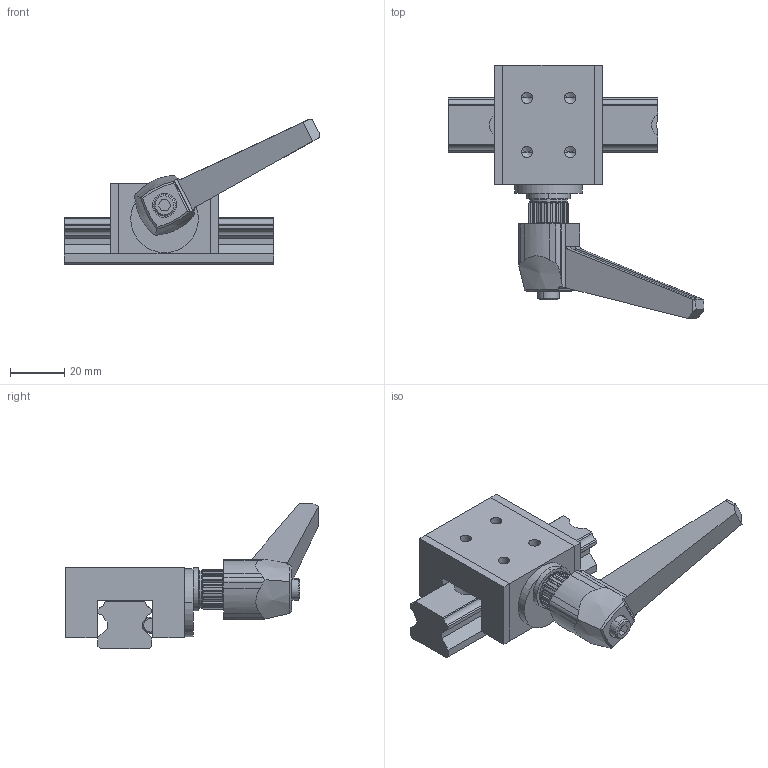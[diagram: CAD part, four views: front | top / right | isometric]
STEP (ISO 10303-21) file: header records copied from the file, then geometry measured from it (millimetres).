
FILE_DESCRIPTION (( 'STEP AP203' ), '1' );
FILE_NAME ('TRAVA TRILHO_20.STEP', '2023-09-14T18:29:13', ( '' ), ( '' ), 'SwSTEP 2.0', 'SolidWorks 2019', '' );
FILE_SCHEMA (( 'CONFIG_CONTROL_DESIGN' ));
Length unit declared in the file: millimetre
Products named in the file (9): PINO PRESSIONADOR; spring lock washer 2_din_DIN 6905-7.4-FSt; plain washer 6902 type abc_din_DIN 6902-A7.4; MOEDA; TRAVA TRILHO_20; BLOCO_PRINCIPAL; BN_14189_1563289_adjustable_handle_41451; KR20-N; TAMPA
Assembly tree (9 placements, depth 2):
  TRAVA TRILHO_20
    KR20-N
    PINO PRESSIONADOR
    BLOCO_PRINCIPAL
    TAMPA  x2
    BN_14189_1563289_adjustable_handle_41451
    MOEDA
    plain washer 6902 type abc_din_DIN 6902-A7.4
    spring lock washer 2_din_DIN 6905-7.4-FSt
Bounding box: 94.51 x 93.58 x 53.82 mm (x, y, z)
Volume: 72116.5 mm3; surface area: 28728.5 mm2
Topology: 9 solids, 9 shells, 297 faces, 788 edges, 513 vertices
Faces by surface type: plane 144, cylinder 103, cone 46, torus 4
Entity records: 10137 total; most frequent: CARTESIAN_POINT 2025, ORIENTED_EDGE 1508, DIRECTION 1484, EDGE_CURVE 754, AXIS2_PLACEMENT_3D 528, VERTEX_POINT 497, LINE 428, VECTOR 428
